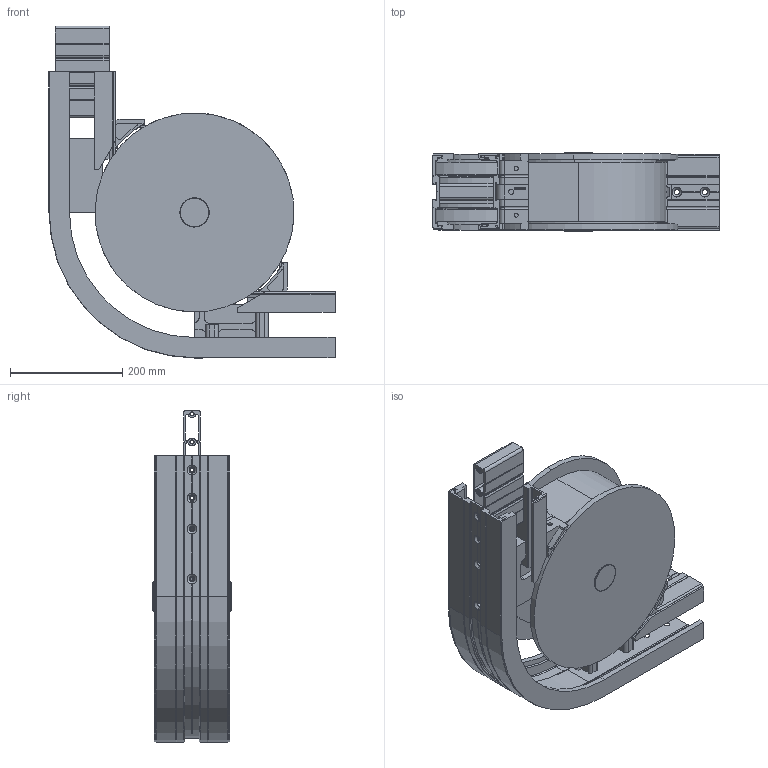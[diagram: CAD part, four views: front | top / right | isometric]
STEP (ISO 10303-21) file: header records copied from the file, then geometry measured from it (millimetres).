
FILE_DESCRIPTION (( 'STEP AP203' ), '1' );
FILE_NAME ('R3C200-90.STEP', '2009-01-13T08:24:23', ( 'faber' ), ( '' ), 'SwSTEP 2.0', 'SolidWorks 2008', '' );
FILE_SCHEMA (( 'CONFIG_CONTROL_DESIGN' ));
Products named in the file (1): R3C200-90
Bounding box: 509 x 139 x 590.75 mm (x, y, z)
Surface area: 1368325.5 mm2 (no closed solid volume)
Topology: 0 solids, 168 shells, 1076 faces, 4040 edges, 3042 vertices
Faces by surface type: plane 643, cylinder 297, torus 97, cone 30, bspline 9
Entity records: 47571 total; most frequent: CARTESIAN_POINT 14891, DIRECTION 6508, ORIENTED_EDGE 5995, EDGE_CURVE 4040, VERTEX_POINT 3042, LINE 2222, VECTOR 2222, AXIS2_PLACEMENT_3D 2143
